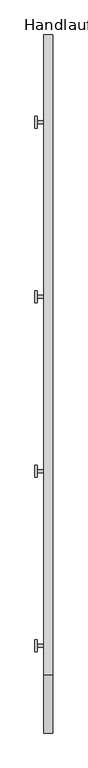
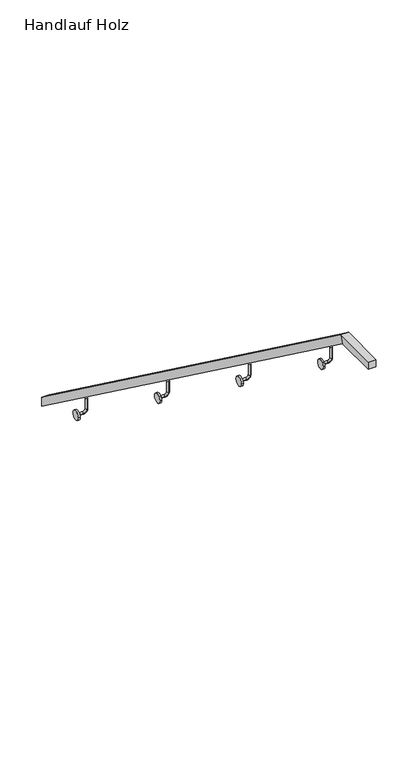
"""IFC4 building model written with IfcOpenShell, lengths in millimetres: railing geometry, Handlauf Holz."""

import ifcopenshell
import ifcopenshell.guid

model = None  # the IFC model being written
_history = None  # IfcOwnerHistory: only IFC2X3 demands one
_inside = {}  # id of a spatial element -> (the spatial element, [elements in it])
_under = {}  # id of a project, library or spatial element -> (it, [spatial elements below it])
_declared = {}  # id of a project -> (the project, [libraries it declares])
_typed = {}  # id of a type object -> (the type object, [elements of that type])
_made_of = {}  # id of a material, layer set ... -> (it, [elements and type objects made of it])


def new_model(schema):
    """Start an empty IFC model of exactly this schema.

    Asked for "IFC4X3", IfcOpenShell would pick the latest addendum, in which some entities
    have other attributes; the version numbers below select the first issue.
    IFC2X3 requires an IfcOwnerHistory on every rooted entity: one is made here for all.
    """
    global model, _history
    if schema == "IFC4X3":
        model = ifcopenshell.file(schema_version=(4, 3, 0, 0))
    else:
        model = ifcopenshell.file(schema=schema)
    _inside.clear()
    _under.clear()
    _declared.clear()
    _typed.clear()
    _made_of.clear()
    _history = None
    if model.schema == "IFC2X3":
        org = make("IfcOrganization", Name="unknown")
        user = make(
            "IfcPersonAndOrganization",
            ThePerson=make("IfcPerson", FamilyName="unknown"),
            TheOrganization=org,
        )
        app = make(
            "IfcApplication",
            ApplicationDeveloper=org,
            Version="unknown",
            ApplicationFullName="unknown",
            ApplicationIdentifier="unknown",
        )
        _history = make(
            "IfcOwnerHistory",
            OwningUser=user,
            OwningApplication=app,
            ChangeAction="ADDED",
            CreationDate=0,
        )
    return model


def make(cls, **values):
    """One entity of the class cls with the attributes given. An attribute that is None is left unset."""
    return model.create_entity(
        cls, **{name: value for name, value in values.items() if value is not None}
    )


def rooted(cls, **values):
    """An entity with a GlobalId (a new one), such as an element, a storey or a relation."""
    return make(cls, GlobalId=ifcopenshell.guid.new(), OwnerHistory=_history, **values)


def si_unit(unit_type, name, prefix=None):
    """IfcSIUnit, for example si_unit("LENGTHUNIT", "METRE", prefix="MILLI")."""
    return make("IfcSIUnit", UnitType=unit_type, Prefix=prefix, Name=name)


def assignment(units):
    """IfcUnitAssignment: the units of a project."""
    return None if units is None else make("IfcUnitAssignment", Units=units)


def point(xyz):
    """IfcCartesianPoint."""
    return None if xyz is None else make("IfcCartesianPoint", Coordinates=xyz)


def direction(xyz):
    """IfcDirection."""
    return None if xyz is None else make("IfcDirection", DirectionRatios=xyz)


def frame(location, z_axis=None, x_axis=None):
    """IfcAxis2Placement3D, a coordinate frame: its origin and axes. An axis left out is left unset."""
    return make(
        "IfcAxis2Placement3D",
        Location=point(location),
        Axis=direction(z_axis),
        RefDirection=direction(x_axis),
    )


def frame_2d(location, x_axis=None):
    """IfcAxis2Placement2D, a coordinate frame in the plane: its origin and x axis."""
    return make(
        "IfcAxis2Placement2D", Location=point(location), RefDirection=direction(x_axis)
    )


def origin():
    """The frame at (0, 0, 0) with its axes left unset."""
    return frame((0.0, 0.0, 0.0))


def place(relative_to, where):
    """IfcLocalPlacement: puts the frame where relative to a parent placement (None: the world)."""
    return make(
        "IfcLocalPlacement", PlacementRelTo=relative_to, RelativePlacement=where
    )


def context(
    kind, dimensions, precision=None, world=None, true_north=None, identifier=None
):
    """IfcGeometricRepresentationContext, for example the 3D "Model" context."""
    return make(
        "IfcGeometricRepresentationContext",
        ContextIdentifier=identifier,
        ContextType=kind,
        CoordinateSpaceDimension=dimensions,
        Precision=precision,
        WorldCoordinateSystem=world,
        TrueNorth=true_north,
    )


def project(units=None, contexts=None):
    """IfcProject with its units and contexts."""
    return rooted(
        "IfcProject",
        Name="project",
        RepresentationContexts=contexts,
        UnitsInContext=assignment(units),
    )


def spatial(cls, under=None, at=None, **own):
    """A site, building, storey or space (cls), placed at a placement, below another one or the project."""
    s = rooted(cls, ObjectPlacement=at, **own)
    if under is not None:
        _under.setdefault(under.id(), (under, []))[1].append(s)
    return s


def circle_curve(where, radius):
    """IfcCircle in the frame where."""
    return make("IfcCircle", Position=where, Radius=radius)


def ellipse_curve(where, semi_axis1, semi_axis2):
    """IfcEllipse in the frame where."""
    return make(
        "IfcEllipse", Position=where, SemiAxis1=semi_axis1, SemiAxis2=semi_axis2
    )


def trimmed(basis, trim1, trim2, sense, master):
    """IfcTrimmedCurve: the piece of a basis curve between two trims."""
    return make(
        "IfcTrimmedCurve",
        BasisCurve=basis,
        Trim1=trim1,
        Trim2=trim2,
        SenseAgreement=sense,
        MasterRepresentation=master,
    )


def segment(curve, same_sense, transition):
    """IfcCompositeCurveSegment."""
    return make(
        "IfcCompositeCurveSegment",
        Transition=transition,
        SameSense=same_sense,
        ParentCurve=curve,
    )


def composite_curve(segments, self_intersect=None):
    """IfcCompositeCurve: segments joined end to end."""
    return make("IfcCompositeCurve", Segments=segments, SelfIntersect=self_intersect)


def outline(outer, holes=None, kind="AREA"):
    """IfcArbitraryClosedProfileDef: a profile drawn as a closed curve; with holes, ...WithVoids."""
    if holes is None:
        return make("IfcArbitraryClosedProfileDef", ProfileType=kind, OuterCurve=outer)
    return make(
        "IfcArbitraryProfileDefWithVoids",
        ProfileType=kind,
        OuterCurve=outer,
        InnerCurves=holes,
    )


def extrude(swept, where, along, depth):
    """IfcExtrudedAreaSolid: the profile swept, set in the frame where, extruded along a direction by depth."""
    return make(
        "IfcExtrudedAreaSolid",
        SweptArea=swept,
        Position=where,
        ExtrudedDirection=direction(along),
        Depth=depth,
    )


def faces_of(points, faces, orient=None, outer=None):
    """IfcFace entities. A face is a list of loops; a loop is a list of indices into points, from 0.

    orient and outer hold one flag for each loop. By default every Orientation is true, the
    first loop of a face is its IfcFaceOuterBound and the others are IfcFaceBound.
    """
    made = []
    for i, loops in enumerate(faces):
        bounds = []
        for j, loop in enumerate(loops):
            is_outer = j == 0 if outer is None else outer[i][j]
            bounds.append(
                make(
                    "IfcFaceOuterBound" if is_outer else "IfcFaceBound",
                    Bound=make("IfcPolyLoop", Polygon=[points[k] for k in loop]),
                    Orientation=True if orient is None else orient[i][j],
                )
            )
        made.append(make("IfcFace", Bounds=bounds))
    return made


def faceted_brep(points, faces, orient=None, outer=None, voids=None):
    """IfcFacetedBrep: a solid bounded by flat faces; with voids (closed shells), ...WithVoids."""
    shared = [point(p) for p in points]
    hull = make("IfcClosedShell", CfsFaces=faces_of(shared, faces, orient, outer))
    if voids is None:
        return make("IfcFacetedBrep", Outer=hull)
    return make(
        "IfcFacetedBrepWithVoids",
        Outer=hull,
        Voids=[
            make(cls, CfsFaces=faces_of(shared, fs, o, b)) for cls, fs, o, b in voids
        ],
    )


def shape(context_of_items, identifier, shape_type, items):
    """IfcShapeRepresentation: the items that make up one representation, for example the "Body"."""
    return make(
        "IfcShapeRepresentation",
        ContextOfItems=context_of_items,
        RepresentationIdentifier=identifier,
        RepresentationType=shape_type,
        Items=items,
    )


def source(mapping_origin, context_of_items, identifier, shape_type, items):
    """IfcRepresentationMap: a shape defined once, which mapped items show again and again."""
    return make(
        "IfcRepresentationMap",
        MappingOrigin=mapping_origin,
        MappedRepresentation=shape(context_of_items, identifier, shape_type, items),
    )


def transform(
    local_origin,
    x_axis=None,
    y_axis=None,
    z_axis=None,
    scale=None,
    scale2=None,
    scale3=None,
    uniform=True,
):
    """IfcCartesianTransformationOperator3D, or its non-uniform kind. x_axis, y_axis, z_axis: its Axis1, 2, 3."""
    if uniform:
        return make(
            "IfcCartesianTransformationOperator3D",
            Axis1=direction(x_axis),
            Axis2=direction(y_axis),
            LocalOrigin=point(local_origin),
            Scale=scale,
            Axis3=direction(z_axis),
        )
    return make(
        "IfcCartesianTransformationOperator3DnonUniform",
        Axis1=direction(x_axis),
        Axis2=direction(y_axis),
        LocalOrigin=point(local_origin),
        Scale=scale,
        Axis3=direction(z_axis),
        Scale2=scale2,
        Scale3=scale3,
    )


def mapped(mapping_source, mapping_target):
    """IfcMappedItem: shows the shape of a source again, moved by a transform."""
    return make(
        "IfcMappedItem", MappingSource=mapping_source, MappingTarget=mapping_target
    )


def made_of(thing, what):
    """Note that an element or type object is made of a material, layer set ...; save() writes the relation."""
    if what is not None:
        _made_of.setdefault(what.id(), (what, []))[1].append(thing)
    return thing


def element(
    cls,
    number,
    at=None,
    inside=None,
    cuts=None,
    type_object=None,
    material=None,
    context=None,
    identifier="Body",
    shape_type=None,
    held_by="IfcProductDefinitionShape",
    body=None,
    shapes=None,
    **own,
):
    """One element of the class cls, such as IfcWall. Its Tag is "e" and its number.

    at: its placement. inside: the storey or other place that contains it. cuts: it is an
    opening in that element (IfcRelVoidsElement). A single representation is given by context,
    identifier, shape_type and body (its items); several are given by shapes. held_by: the class
    of the entity that holds the representations. save() writes the other relations.
    """
    e = rooted(cls, Tag="e%d" % number, ObjectPlacement=at, **own)
    if body is not None:
        shapes = [shape(context, identifier, shape_type, body)]
    if shapes is not None:
        e.Representation = make(held_by, Representations=shapes)
    if inside is not None:
        _inside.setdefault(inside.id(), (inside, []))[1].append(e)
    if cuts is not None:
        rooted(
            "IfcRelVoidsElement", RelatingBuildingElement=cuts, RelatedOpeningElement=e
        )
    if type_object is not None:
        _typed.setdefault(type_object.id(), (type_object, []))[1].append(e)
    return made_of(e, material)


def aggregate(whole, parts):
    """IfcRelAggregates: a whole, such as a stair, and the parts it consists of."""
    return rooted("IfcRelAggregates", RelatingObject=whole, RelatedObjects=parts)


def save(model, path):
    """Write the relations noted so far, then the file.

    IfcRelAggregates (storeys below a building ...), IfcRelContainedInSpatialStructure (elements
    in a storey), IfcRelDefinesByType, IfcRelAssociatesMaterial and IfcRelDeclares: one each for
    every whole, place, type object, material and project.
    """
    for whole, parts in _under.values():
        aggregate(whole, parts)
    for where, things in _inside.values():
        rooted(
            "IfcRelContainedInSpatialStructure",
            RelatedElements=things,
            RelatingStructure=where,
        )
    for kind, things in _typed.values():
        rooted("IfcRelDefinesByType", RelatedObjects=things, RelatingType=kind)
    for what, things in _made_of.values():
        rooted("IfcRelAssociatesMaterial", RelatedObjects=things, RelatingMaterial=what)
    for by, libraries in _declared.values():
        rooted("IfcRelDeclares", RelatingContext=by, RelatedDefinitions=libraries)
    model.write(path)


def plane_surface(at):
    """IfcPlane: the flat surface through the origin of the frame at, square to its z axis."""
    return make("IfcPlane", Position=at)


def cylinder_surface(at, radius):
    """IfcCylindricalSurface: all points at the distance radius from the z axis of the frame at."""
    return make("IfcCylindricalSurface", Position=at, Radius=radius)


def revolved_surface(curve, axis_point, axis_direction):
    """IfcSurfaceOfRevolution: the curve turned about the line through axis_point along axis_direction."""
    return make(
        "IfcSurfaceOfRevolution",
        SweptCurve=make("IfcArbitraryOpenProfileDef", ProfileType="CURVE", Curve=curve),
        AxisPosition=make("IfcAxis1Placement", Location=point(axis_point), Axis=direction(axis_direction)),
    )


def advanced_brep(points, edges, surfaces, faces):
    """IfcAdvancedBrep: a solid bounded by faces that lie on surfaces and meet in shared edges.

    An edge is (start, end): straight between two places in points (the first is 0);
    or (start, end, curve); or (start, end, curve, False) where it runs against its curve.
    A face is (place in surfaces, loops), or (place, loops, False) where it looks against
    its surface's normal. A loop lists edges by number (the first is 1), with a minus sign
    where the edge is run from its end to its start. The first loop is the outer one.
    """
    corners = [point(p) for p in points]
    vertices = [make("IfcVertexPoint", VertexGeometry=c) for c in corners]
    made = []
    for start, end, *more in edges:
        made.append(
            make(
                "IfcEdgeCurve",
                EdgeStart=vertices[start],
                EdgeEnd=vertices[end],
                EdgeGeometry=more[0] if more else make("IfcPolyline", Points=[corners[start], corners[end]]),
                SameSense=more[1] if len(more) > 1 else True,
            )
        )
    hull = []
    for where, loops, *sense in faces:
        bounds = []
        for j, loop in enumerate(loops):
            ring = [make("IfcOrientedEdge", EdgeElement=made[abs(k) - 1], Orientation=k > 0) for k in loop]
            bounds.append(
                make(
                    "IfcFaceOuterBound" if j == 0 else "IfcFaceBound",
                    Bound=make("IfcEdgeLoop", EdgeList=ring),
                    Orientation=True,
                )
            )
        hull.append(make("IfcAdvancedFace", Bounds=bounds, FaceSurface=surfaces[where], SameSense=sense[0] if sense else True))
    return make("IfcAdvancedBrep", Outer=make("IfcClosedShell", CfsFaces=hull))


def handlauf_holz_37a11ede(model_context):
    return source(origin(), model_context, "Body", "SolidModel", [
        faceted_brep([(1017.0, 4490.0, -16.6666667), (1057.0, 4490.0, -16.6666667), (1057.0, 4490.0, -66.269534), (1017.0, 4490.0, -66.269534), (1017.0, 1740.0, 2000.0), (1057.0, 1740.0, 2000.0), (1057.0, 1726.905181, 1960.0), (1017.0, 1726.905181, 1960.0), (1017.0, 1490.0, 2000.0), (1017.0, 1490.0, 1960.0), (1057.0, 1490.0, 1960.0), (1057.0, 1490.0, 2000.0)], [[[0, 1, 2, 3]], [[1, 0, 4, 5]], [[2, 1, 5, 6]], [[3, 2, 6, 7]], [[0, 3, 7, 4]], [[8, 9, 10, 11]], [[5, 4, 8, 11]], [[6, 5, 11, 10]], [[7, 6, 10, 9]], [[4, 7, 9, 8]]]),
        advanced_brep(
        [(1037.0, 1871.35, 1849.2833333), (1037.0, 1858.65, 1849.2833333), (1037.0, 1871.35, 1792.1333333), (1037.0, 1858.65, 1792.1333333), (1017.95, 1858.65, 1773.0833333), (1017.95, 1871.35, 1773.0833333), (989.375, 1871.35, 1773.0833333), (989.375, 1858.65, 1773.0833333)],
        [
            (0, 1, circle_curve(frame((1037.0, 1865.0, 1849.2833333), z_axis=(0.0, 0.0, 1.0), x_axis=(0.0, -1.0, 0.0)), 6.35)),
            (1, 0, circle_curve(frame((1037.0, 1865.0, 1849.2833333), z_axis=(0.0, 0.0, 1.0), x_axis=(0.0, -1.0, 0.0)), 6.35)),
            (0, 2),
            (2, 3, circle_curve(frame((1037.0, 1865.0, 1792.1333333), z_axis=(0.0, 0.0, 1.0), x_axis=(0.0, -1.0, 0.0)), 6.35)),
            (3, 1),
            (3, 2, circle_curve(frame((1037.0, 1865.0, 1792.1333333), z_axis=(0.0, 0.0, 1.0), x_axis=(0.0, -1.0, 0.0)), 6.35)),
            (4, 3, circle_curve(frame((1017.95, 1858.65, 1792.1333333), z_axis=(0.0, -1.0, 0.0), x_axis=(1.0, 0.0, 0.0)), 19.05)),
            (2, 5, circle_curve(frame((1017.95, 1871.35, 1792.1333333), z_axis=(0.0, 1.0, 0.0), x_axis=(1.0, 0.0, 0.0)), 19.05)),
            (5, 4, circle_curve(frame((1017.95, 1865.0, 1773.0833333), z_axis=(1.0, 0.0, 0.0), x_axis=(0.0, -1.0, 0.0)), 6.35)),
            (4, 5, circle_curve(frame((1017.95, 1865.0, 1773.0833333), z_axis=(1.0, 0.0, 0.0), x_axis=(0.0, -1.0, 0.0)), 6.35)),
            (6, 7, circle_curve(frame((989.375, 1865.0, 1773.0833333), z_axis=(-1.0, 0.0, 0.0), x_axis=(0.0, -1.0, 0.0)), 6.35)),
            (7, 6, circle_curve(frame((989.375, 1865.0, 1773.0833333), z_axis=(-1.0, 0.0, 0.0), x_axis=(0.0, -1.0, 0.0)), 6.35)),
            (5, 6),
            (7, 4),
        ],
        [
            plane_surface(frame((1037.0, 1858.65, 1849.2833333), z_axis=(0.0, 0.0, 1.0), x_axis=(-1.0, 0.0, 0.0))),
            cylinder_surface(frame((1037.0, 1865.0, 1849.2833333), z_axis=(0.0, 0.0, 1.0), x_axis=(0.0, -1.0, 0.0)), 6.35),
            revolved_surface(trimmed(ellipse_curve(frame((1037.0, 1865.0, 1792.1333333), z_axis=(0.0, 0.0, 1.0), x_axis=(0.0, -1.0, 0.0)), 6.35, 6.35), [point((1037.0, 1871.35, 1792.1333333))], [point((1037.0, 1858.65, 1792.1333333))], True, "CARTESIAN"), (1017.95, 1865.0, 1792.1333333), (0.0, 1.0, 0.0)),
            revolved_surface(trimmed(ellipse_curve(frame((1037.0, 1865.0, 1792.1333333), z_axis=(0.0, 0.0, 1.0), x_axis=(0.0, -1.0, 0.0)), 6.35, 6.35), [point((1037.0, 1858.65, 1792.1333333))], [point((1037.0, 1871.35, 1792.1333333))], True, "CARTESIAN"), (1017.95, 1865.0, 1792.1333333), (0.0, 1.0, 0.0)),
            plane_surface(frame((989.375, 1865.0, 1766.7333333), z_axis=(-1.0, 0.0, 0.0), x_axis=(0.0, -1.0, 0.0))),
            cylinder_surface(frame((1017.95, 1865.0, 1773.0833333), z_axis=(1.0, 0.0, 0.0), x_axis=(0.0, -1.0, 0.0)), 6.35),
        ],
        [
            (0, [[1, 2]]),
            (1, [[-1, 3, 4, 5]]),
            (1, [[-2, -5, 6, -3]]),
            (2, [[7, -4, 8, 9]]),
            (3, [[-8, -6, -7, 10]]),
            (4, [[11, 12]]),
            (5, [[-9, 13, -12, 14]]),
            (5, [[-10, -14, -11, -13]]),
        ],
    ),
        extrude(outline(composite_curve([segment(trimmed(circle_curve(frame_2d((1865.0, 1773.0833333)), 25.4), [point((1839.6, 1773.0833333))], [point((1890.4, 1773.0833333))], False, "CARTESIAN"), True, "CONTINUOUS"), segment(trimmed(circle_curve(frame_2d((1865.0, 1773.0833333)), 25.4), [point((1890.4, 1773.0833333))], [point((1839.6, 1773.0833333))], False, "CARTESIAN"), True, "CONTINUOUS")], self_intersect=False)), frame((979.85, 0.0, 0.0), z_axis=(1.0, 0.0, 0.0), x_axis=(0.0, 1.0, 0.0)), (0.0, 0.0, 1.0), 9.525),
        advanced_brep(
        [(1037.0, 2621.35, 1299.2833333), (1037.0, 2608.65, 1299.2833333), (1037.0, 2621.35, 1242.1333333), (1037.0, 2608.65, 1242.1333333), (1017.95, 2608.65, 1223.0833333), (1017.95, 2621.35, 1223.0833333), (989.375, 2621.35, 1223.0833333), (989.375, 2608.65, 1223.0833333)],
        [
            (0, 1, circle_curve(frame((1037.0, 2615.0, 1299.2833333), z_axis=(0.0, 0.0, 1.0), x_axis=(0.0, -1.0, 0.0)), 6.35)),
            (1, 0, circle_curve(frame((1037.0, 2615.0, 1299.2833333), z_axis=(0.0, 0.0, 1.0), x_axis=(0.0, -1.0, 0.0)), 6.35)),
            (0, 2),
            (2, 3, circle_curve(frame((1037.0, 2615.0, 1242.1333333), z_axis=(0.0, 0.0, 1.0), x_axis=(0.0, -1.0, 0.0)), 6.35)),
            (3, 1),
            (3, 2, circle_curve(frame((1037.0, 2615.0, 1242.1333333), z_axis=(0.0, 0.0, 1.0), x_axis=(0.0, -1.0, 0.0)), 6.35)),
            (4, 3, circle_curve(frame((1017.95, 2608.65, 1242.1333333), z_axis=(0.0, -1.0, 0.0), x_axis=(1.0, 0.0, 0.0)), 19.05)),
            (2, 5, circle_curve(frame((1017.95, 2621.35, 1242.1333333), z_axis=(0.0, 1.0, 0.0), x_axis=(1.0, 0.0, 0.0)), 19.05)),
            (5, 4, circle_curve(frame((1017.95, 2615.0, 1223.0833333), z_axis=(1.0, 0.0, 0.0), x_axis=(0.0, -1.0, 0.0)), 6.35)),
            (4, 5, circle_curve(frame((1017.95, 2615.0, 1223.0833333), z_axis=(1.0, 0.0, 0.0), x_axis=(0.0, -1.0, 0.0)), 6.35)),
            (6, 7, circle_curve(frame((989.375, 2615.0, 1223.0833333), z_axis=(-1.0, 0.0, 0.0), x_axis=(0.0, -1.0, 0.0)), 6.35)),
            (7, 6, circle_curve(frame((989.375, 2615.0, 1223.0833333), z_axis=(-1.0, 0.0, 0.0), x_axis=(0.0, -1.0, 0.0)), 6.35)),
            (5, 6),
            (7, 4),
        ],
        [
            plane_surface(frame((1037.0, 2608.65, 1299.2833333), z_axis=(0.0, 0.0, 1.0), x_axis=(-1.0, 0.0, 0.0))),
            cylinder_surface(frame((1037.0, 2615.0, 1299.2833333), z_axis=(0.0, 0.0, 1.0), x_axis=(0.0, -1.0, 0.0)), 6.35),
            revolved_surface(trimmed(ellipse_curve(frame((1037.0, 2615.0, 1242.1333333), z_axis=(0.0, 0.0, 1.0), x_axis=(0.0, -1.0, 0.0)), 6.35, 6.35), [point((1037.0, 2621.35, 1242.1333333))], [point((1037.0, 2608.65, 1242.1333333))], True, "CARTESIAN"), (1017.95, 2615.0, 1242.1333333), (0.0, 1.0, 0.0)),
            revolved_surface(trimmed(ellipse_curve(frame((1037.0, 2615.0, 1242.1333333), z_axis=(0.0, 0.0, 1.0), x_axis=(0.0, -1.0, 0.0)), 6.35, 6.35), [point((1037.0, 2608.65, 1242.1333333))], [point((1037.0, 2621.35, 1242.1333333))], True, "CARTESIAN"), (1017.95, 2615.0, 1242.1333333), (0.0, 1.0, 0.0)),
            plane_surface(frame((989.375, 2615.0, 1216.7333333), z_axis=(-1.0, 0.0, 0.0), x_axis=(0.0, -1.0, 0.0))),
            cylinder_surface(frame((1017.95, 2615.0, 1223.0833333), z_axis=(1.0, 0.0, 0.0), x_axis=(0.0, -1.0, 0.0)), 6.35),
        ],
        [
            (0, [[1, 2]]),
            (1, [[-1, 3, 4, 5]]),
            (1, [[-2, -5, 6, -3]]),
            (2, [[7, -4, 8, 9]]),
            (3, [[-8, -6, -7, 10]]),
            (4, [[11, 12]]),
            (5, [[-9, 13, -12, 14]]),
            (5, [[-10, -14, -11, -13]]),
        ],
    ),
        extrude(outline(composite_curve([segment(trimmed(circle_curve(frame_2d((2615.0, 1223.0833333)), 25.4), [point((2589.6, 1223.0833333))], [point((2640.4, 1223.0833333))], False, "CARTESIAN"), True, "CONTINUOUS"), segment(trimmed(circle_curve(frame_2d((2615.0, 1223.0833333)), 25.4), [point((2640.4, 1223.0833333))], [point((2589.6, 1223.0833333))], False, "CARTESIAN"), True, "CONTINUOUS")], self_intersect=False)), frame((979.85, 0.0, 0.0), z_axis=(1.0, 0.0, 0.0), x_axis=(0.0, 1.0, 0.0)), (0.0, 0.0, 1.0), 9.525),
        advanced_brep(
        [(1037.0, 3371.35, 749.2833333), (1037.0, 3358.65, 749.2833333), (1037.0, 3371.35, 692.1333333), (1037.0, 3358.65, 692.1333333), (1017.95, 3358.65, 673.0833333), (1017.95, 3371.35, 673.0833333), (989.375, 3371.35, 673.0833333), (989.375, 3358.65, 673.0833333)],
        [
            (0, 1, circle_curve(frame((1037.0, 3365.0, 749.2833333), z_axis=(0.0, 0.0, 1.0), x_axis=(0.0, -1.0, 0.0)), 6.35)),
            (1, 0, circle_curve(frame((1037.0, 3365.0, 749.2833333), z_axis=(0.0, 0.0, 1.0), x_axis=(0.0, -1.0, 0.0)), 6.35)),
            (0, 2),
            (2, 3, circle_curve(frame((1037.0, 3365.0, 692.1333333), z_axis=(0.0, 0.0, 1.0), x_axis=(0.0, -1.0, 0.0)), 6.35)),
            (3, 1),
            (3, 2, circle_curve(frame((1037.0, 3365.0, 692.1333333), z_axis=(0.0, 0.0, 1.0), x_axis=(0.0, -1.0, 0.0)), 6.35)),
            (4, 3, circle_curve(frame((1017.95, 3358.65, 692.1333333), z_axis=(0.0, -1.0, 0.0), x_axis=(1.0, 0.0, 0.0)), 19.05)),
            (2, 5, circle_curve(frame((1017.95, 3371.35, 692.1333333), z_axis=(0.0, 1.0, 0.0), x_axis=(1.0, 0.0, 0.0)), 19.05)),
            (5, 4, circle_curve(frame((1017.95, 3365.0, 673.0833333), z_axis=(1.0, 0.0, 0.0), x_axis=(0.0, -1.0, 0.0)), 6.35)),
            (4, 5, circle_curve(frame((1017.95, 3365.0, 673.0833333), z_axis=(1.0, 0.0, 0.0), x_axis=(0.0, -1.0, 0.0)), 6.35)),
            (6, 7, circle_curve(frame((989.375, 3365.0, 673.0833333), z_axis=(-1.0, 0.0, 0.0), x_axis=(0.0, -1.0, 0.0)), 6.35)),
            (7, 6, circle_curve(frame((989.375, 3365.0, 673.0833333), z_axis=(-1.0, 0.0, 0.0), x_axis=(0.0, -1.0, 0.0)), 6.35)),
            (5, 6),
            (7, 4),
        ],
        [
            plane_surface(frame((1037.0, 3358.65, 749.2833333), z_axis=(0.0, 0.0, 1.0), x_axis=(-1.0, 0.0, 0.0))),
            cylinder_surface(frame((1037.0, 3365.0, 749.2833333), z_axis=(0.0, 0.0, 1.0), x_axis=(0.0, -1.0, 0.0)), 6.35),
            revolved_surface(trimmed(ellipse_curve(frame((1037.0, 3365.0, 692.1333333), z_axis=(0.0, 0.0, 1.0), x_axis=(0.0, -1.0, 0.0)), 6.35, 6.35), [point((1037.0, 3371.35, 692.1333333))], [point((1037.0, 3358.65, 692.1333333))], True, "CARTESIAN"), (1017.95, 3365.0, 692.1333333), (0.0, 1.0, 0.0)),
            revolved_surface(trimmed(ellipse_curve(frame((1037.0, 3365.0, 692.1333333), z_axis=(0.0, 0.0, 1.0), x_axis=(0.0, -1.0, 0.0)), 6.35, 6.35), [point((1037.0, 3358.65, 692.1333333))], [point((1037.0, 3371.35, 692.1333333))], True, "CARTESIAN"), (1017.95, 3365.0, 692.1333333), (0.0, 1.0, 0.0)),
            plane_surface(frame((989.375, 3365.0, 666.7333333), z_axis=(-1.0, 0.0, 0.0), x_axis=(0.0, -1.0, 0.0))),
            cylinder_surface(frame((1017.95, 3365.0, 673.0833333), z_axis=(1.0, 0.0, 0.0), x_axis=(0.0, -1.0, 0.0)), 6.35),
        ],
        [
            (0, [[1, 2]]),
            (1, [[-1, 3, 4, 5]]),
            (1, [[-2, -5, 6, -3]]),
            (2, [[7, -4, 8, 9]]),
            (3, [[-8, -6, -7, 10]]),
            (4, [[11, 12]]),
            (5, [[-9, 13, -12, 14]]),
            (5, [[-10, -14, -11, -13]]),
        ],
    ),
        extrude(outline(composite_curve([segment(trimmed(circle_curve(frame_2d((3365.0, 673.0833333)), 25.4), [point((3339.6, 673.0833333))], [point((3390.4, 673.0833333))], False, "CARTESIAN"), True, "CONTINUOUS"), segment(trimmed(circle_curve(frame_2d((3365.0, 673.0833333)), 25.4), [point((3390.4, 673.0833333))], [point((3339.6, 673.0833333))], False, "CARTESIAN"), True, "CONTINUOUS")], self_intersect=False)), frame((979.85, 0.0, 0.0), z_axis=(1.0, 0.0, 0.0), x_axis=(0.0, 1.0, 0.0)), (0.0, 0.0, 1.0), 9.525),
        advanced_brep(
        [(1037.0, 4121.35, 199.2833333), (1037.0, 4108.65, 199.2833333), (1037.0, 4121.35, 142.1333333), (1037.0, 4108.65, 142.1333333), (1017.95, 4108.65, 123.0833333), (1017.95, 4121.35, 123.0833333), (989.375, 4121.35, 123.0833333), (989.375, 4108.65, 123.0833333)],
        [
            (0, 1, circle_curve(frame((1037.0, 4115.0, 199.2833333), z_axis=(0.0, 0.0, 1.0), x_axis=(0.0, -1.0, 0.0)), 6.35)),
            (1, 0, circle_curve(frame((1037.0, 4115.0, 199.2833333), z_axis=(0.0, 0.0, 1.0), x_axis=(0.0, -1.0, 0.0)), 6.35)),
            (0, 2),
            (2, 3, circle_curve(frame((1037.0, 4115.0, 142.1333333), z_axis=(0.0, 0.0, 1.0), x_axis=(0.0, -1.0, 0.0)), 6.35)),
            (3, 1),
            (3, 2, circle_curve(frame((1037.0, 4115.0, 142.1333333), z_axis=(0.0, 0.0, 1.0), x_axis=(0.0, -1.0, 0.0)), 6.35)),
            (4, 3, circle_curve(frame((1017.95, 4108.65, 142.1333333), z_axis=(0.0, -1.0, 0.0), x_axis=(1.0, 0.0, 0.0)), 19.05)),
            (2, 5, circle_curve(frame((1017.95, 4121.35, 142.1333333), z_axis=(0.0, 1.0, 0.0), x_axis=(1.0, 0.0, 0.0)), 19.05)),
            (5, 4, circle_curve(frame((1017.95, 4115.0, 123.0833333), z_axis=(1.0, 0.0, 0.0), x_axis=(0.0, -1.0, 0.0)), 6.35)),
            (4, 5, circle_curve(frame((1017.95, 4115.0, 123.0833333), z_axis=(1.0, 0.0, 0.0), x_axis=(0.0, -1.0, 0.0)), 6.35)),
            (6, 7, circle_curve(frame((989.375, 4115.0, 123.0833333), z_axis=(-1.0, 0.0, 0.0), x_axis=(0.0, -1.0, 0.0)), 6.35)),
            (7, 6, circle_curve(frame((989.375, 4115.0, 123.0833333), z_axis=(-1.0, 0.0, 0.0), x_axis=(0.0, -1.0, 0.0)), 6.35)),
            (5, 6),
            (7, 4),
        ],
        [
            plane_surface(frame((1037.0, 4108.65, 199.2833333), z_axis=(0.0, 0.0, 1.0), x_axis=(-1.0, 0.0, 0.0))),
            cylinder_surface(frame((1037.0, 4115.0, 199.2833333), z_axis=(0.0, 0.0, 1.0), x_axis=(0.0, -1.0, 0.0)), 6.35),
            revolved_surface(trimmed(ellipse_curve(frame((1037.0, 4115.0, 142.1333333), z_axis=(0.0, 0.0, 1.0), x_axis=(0.0, -1.0, 0.0)), 6.35, 6.35), [point((1037.0, 4121.35, 142.1333333))], [point((1037.0, 4108.65, 142.1333333))], True, "CARTESIAN"), (1017.95, 4115.0, 142.1333333), (0.0, 1.0, 0.0)),
            revolved_surface(trimmed(ellipse_curve(frame((1037.0, 4115.0, 142.1333333), z_axis=(0.0, 0.0, 1.0), x_axis=(0.0, -1.0, 0.0)), 6.35, 6.35), [point((1037.0, 4108.65, 142.1333333))], [point((1037.0, 4121.35, 142.1333333))], True, "CARTESIAN"), (1017.95, 4115.0, 142.1333333), (0.0, 1.0, 0.0)),
            plane_surface(frame((989.375, 4115.0, 116.7333333), z_axis=(-1.0, 0.0, 0.0), x_axis=(0.0, -1.0, 0.0))),
            cylinder_surface(frame((1017.95, 4115.0, 123.0833333), z_axis=(1.0, 0.0, 0.0), x_axis=(0.0, -1.0, 0.0)), 6.35),
        ],
        [
            (0, [[1, 2]]),
            (1, [[-1, 3, 4, 5]]),
            (1, [[-2, -5, 6, -3]]),
            (2, [[7, -4, 8, 9]]),
            (3, [[-8, -6, -7, 10]]),
            (4, [[11, 12]]),
            (5, [[-9, 13, -12, 14]]),
            (5, [[-10, -14, -11, -13]]),
        ],
    ),
        extrude(outline(composite_curve([segment(trimmed(circle_curve(frame_2d((4115.0, 123.0833333)), 25.4), [point((4089.6, 123.0833333))], [point((4140.4, 123.0833333))], False, "CARTESIAN"), True, "CONTINUOUS"), segment(trimmed(circle_curve(frame_2d((4115.0, 123.0833333)), 25.4), [point((4140.4, 123.0833333))], [point((4089.6, 123.0833333))], False, "CARTESIAN"), True, "CONTINUOUS")], self_intersect=False)), frame((979.85, 0.0, 0.0), z_axis=(1.0, 0.0, 0.0), x_axis=(0.0, 1.0, 0.0)), (0.0, 0.0, 1.0), 9.525),
    ])


if __name__ == "__main__":
    model = new_model("IFC4")
    model_context = context("Model", 3, world=origin())
    ifc_project = project(units=[si_unit("LENGTHUNIT", "METRE", prefix="MILLI")], contexts=[model_context])
    site = spatial("IfcSite", under=ifc_project)
    building = spatial("IfcBuilding", under=site)
    placement = place(None, origin())
    handlauf_holz_shape = handlauf_holz_37a11ede(model_context)
    element("IfcRailing", 1, ObjectType="Handlauf Holz", at=placement, inside=building, context=model_context, shape_type="MappedRepresentation", body=[
        mapped(handlauf_holz_shape, transform((0.0, 0.0, 0.0), x_axis=(1.0, 0.0, 0.0), y_axis=(0.0, 1.0, 0.0), z_axis=(0.0, 0.0, 1.0))),
    ])
    save(model, "model.ifc")
